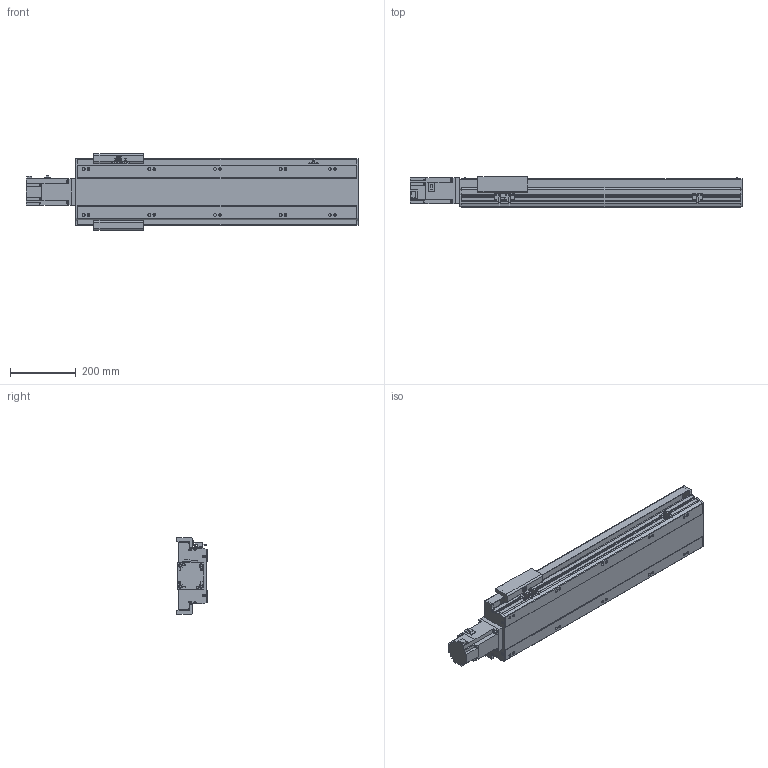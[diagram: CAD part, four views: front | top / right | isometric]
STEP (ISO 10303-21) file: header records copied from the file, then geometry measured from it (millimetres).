
FILE_DESCRIPTION(/* description */ ('STEP AP214'),/* implementation_level */ '2;1');
FILE_NAME(/* name */ 'PSM170-L10-S600-BC-T75-C1-N(0)',/* time_stamp */ '2022-06-13T03:24:22+02:00',/* author */ ('License CC BY-ND 4.0'),/* organization */ ('CADENAS'),/* preprocessor_version */ 'ST-DEVELOPER v18.102',/* originating_system */ 'PARTsolutions',/* authorisation */ ' ');
FILE_SCHEMA (('AUTOMOTIVE_DESIGN {1 0 10303 214 3 1 1}'));
Length unit declared in the file: millimetre
Products named in the file (8): PSM170-L10-S600-BC-T75-C1-N(0); PSM-Sensor; PSM140-S600-842.5; T75-p1; PSM170_body2; PSM170_body3; PSM170-S600_body1; PSM170-L10-S600-BC-T75-C1-N(0)_dummy
Assembly tree (11 placements, depth 2):
  PSM170-L10-S600-BC-T75-C1-N(0)
    PSM-Sensor  x3
    PSM140-S600-842.5  x3
    T75-p1
    PSM170_body2
    PSM170_body3
    PSM170-S600_body1
    PSM170-L10-S600-BC-T75-C1-N(0)_dummy
Bounding box: 1011.3 x 92 x 233 mm (x, y, z)
Volume: 6201941.6 mm3; surface area: 1182386 mm2
Topology: 10 solids, 10 shells, 1031 faces, 2749 edges, 1790 vertices
Faces by surface type: plane 652, cylinder 305, cone 60, torus 14
Full cylindrical faces by diameter (mm): 2.8 x3, 3.08 x1, 4.134 x4, 4.5 x12, 4.6 x3, 5.7 x2, 6 x9, 6.647 x18, 7 x8, 7.6 x4, 8 x8, 8.5 x10, 10 x4, 14 x10, 45 x1, 70 x1
Entity records: 27025 total; most frequent: CARTESIAN_POINT 4934, DIRECTION 4522, ORIENTED_EDGE 4332, EDGE_CURVE 2166, AXIS2_PLACEMENT_3D 1523, VERTEX_POINT 1514, LINE 1476, VECTOR 1476
